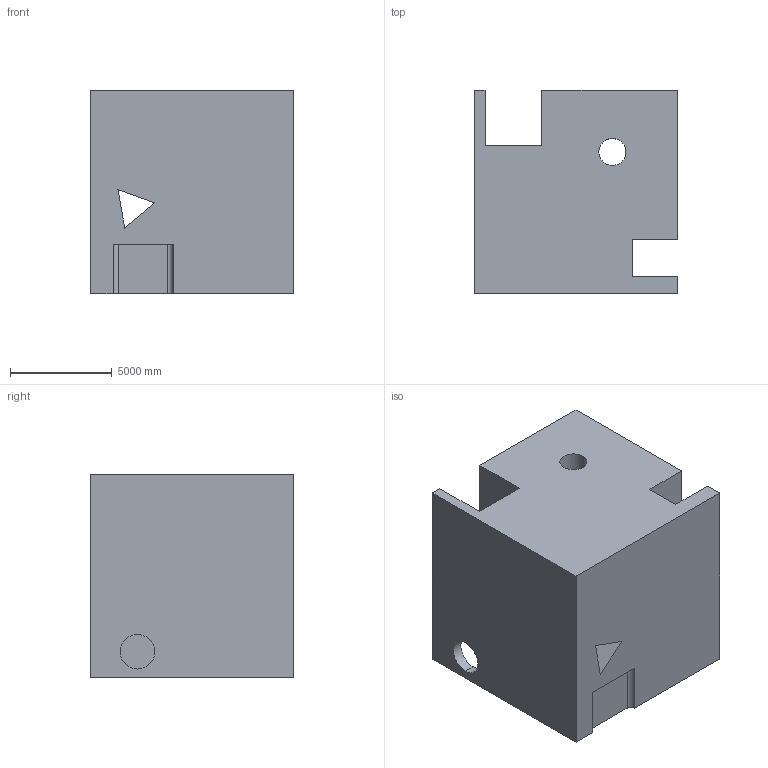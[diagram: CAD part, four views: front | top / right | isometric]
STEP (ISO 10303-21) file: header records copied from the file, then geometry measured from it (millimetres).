
FILE_DESCRIPTION (( 'STEP AP203' ), '1' );
FILE_NAME ('154.STEP', '2022-09-06T15:15:02', ( 'user' ), ( '' ), 'SwSTEP 2.0', 'SolidWorks 2021', '' );
FILE_SCHEMA (( 'CONFIG_CONTROL_DESIGN' ));
Length unit declared in the file: centimetre
Products named in the file (1): 154
Bounding box: 10000 x 10000 x 10000 mm (x, y, z)
Volume: 848477858209.6 mm3; surface area: 765516216.2 mm2
Topology: 1 solids, 1 shells, 28 faces, 81 edges, 54 vertices
Faces by surface type: plane 21, cylinder 7
Entity records: 1012 total; most frequent: CARTESIAN_POINT 164, ORIENTED_EDGE 162, DIRECTION 157, EDGE_CURVE 81, LINE 63, VECTOR 63, VERTEX_POINT 54, AXIS2_PLACEMENT_3D 47
